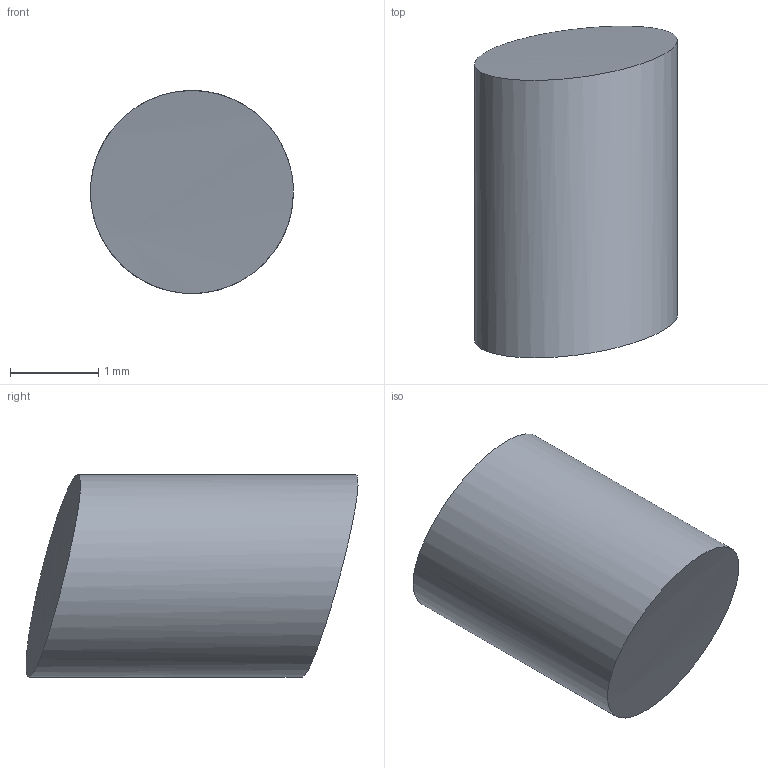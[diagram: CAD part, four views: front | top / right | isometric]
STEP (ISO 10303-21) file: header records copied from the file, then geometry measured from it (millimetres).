
FILE_DESCRIPTION(('Open CASCADE Model'),'2;1');
FILE_NAME('Open CASCADE Shape Model','2026-11-11T21:47:30',('Author'),( 'Open CASCADE'),'Open CASCADE STEP processor 8.0','build123d', 'Unknown');
FILE_SCHEMA(('AUTOMOTIVE_DESIGN { 1 0 10303 214 1 1 1 1 }'));
Length unit declared in the file: millimetre
Products named in the file (1): SOLID
Bounding box: 2.3 x 3.76 x 2.3 mm (x, y, z)
Volume: 12.9 mm3; surface area: 31.2 mm2
Topology: 1 solids, 1 shells, 3 faces, 3 edges, 2 vertices
Faces by surface type: bspline 2, cylinder 1
Full cylindrical faces by diameter (mm): 2.3 x1
Entity records: 18386 total; most frequent: CARTESIAN_POINT 18315, DIRECTION 7, ORIENTED_EDGE 6, B_SPLINE_CURVE_WITH_KNOTS 6, PCURVE 6, DEFINITIONAL_REPRESENTATION 6, ADVANCED_FACE 3, FACE_BOUND 3
